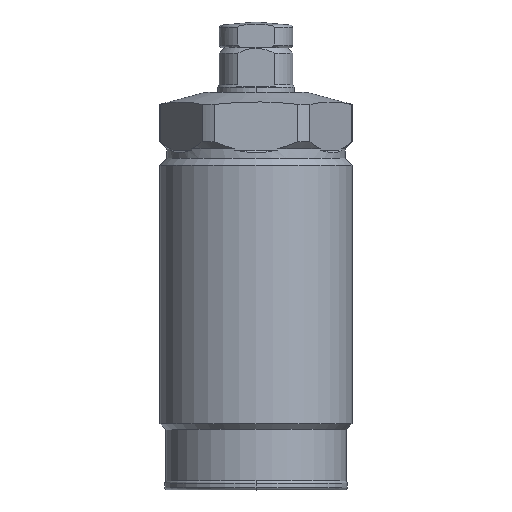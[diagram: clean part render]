
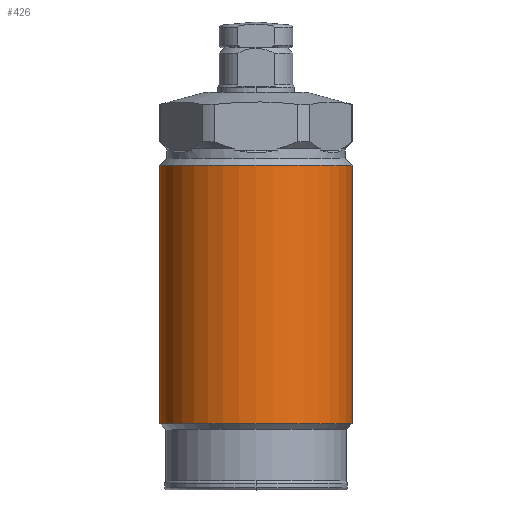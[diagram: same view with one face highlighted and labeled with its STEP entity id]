
A CAD part, top view. The second image highlights one B-rep face of the part: STEP entity #426.
In plain terms, the highlighted cylindrical face has radius 15 mm (diameter 30 mm), a partial arc.
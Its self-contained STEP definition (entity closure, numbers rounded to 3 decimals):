
#426=ADVANCED_FACE('',(#605),#505,.T.);
#505=CYLINDRICAL_SURFACE('',#2585,15.);
#605=FACE_OUTER_BOUND('',#746,.T.);
#746=EDGE_LOOP('',(#1388,#1389,#1390,#1391));
#861=LINE('',#4058,#956);
#862=LINE('',#4059,#957);
#956=VECTOR('',#3212,1.);
#957=VECTOR('',#3213,1.);
#1388=ORIENTED_EDGE('',*,*,#2054,.T.);
#1389=ORIENTED_EDGE('',*,*,#2055,.T.);
#1390=ORIENTED_EDGE('',*,*,#2052,.F.);
#1391=ORIENTED_EDGE('',*,*,#2056,.F.);
#1776=VERTEX_POINT('',#4050);
#1777=VERTEX_POINT('',#4052);
#1778=VERTEX_POINT('',#4056);
#1779=VERTEX_POINT('',#4057);
#2052=EDGE_CURVE('',#1776,#1777,#2304,.T.);
#2054=EDGE_CURVE('',#1778,#1779,#2305,.T.);
#2055=EDGE_CURVE('',#1779,#1777,#861,.T.);
#2056=EDGE_CURVE('',#1778,#1776,#862,.T.);
#2304=CIRCLE('',#2582,15.);
#2305=CIRCLE('',#2584,15.);
#2582=AXIS2_PLACEMENT_3D('',#4051,#3205,#3206);
#2584=AXIS2_PLACEMENT_3D('',#4055,#3210,#3211);
#2585=AXIS2_PLACEMENT_3D('',#4060,#3214,#3215);
#3205=DIRECTION('',(0.,-1.,0.));
#3206=DIRECTION('',(1.,0.,0.));
#3210=DIRECTION('',(0.,-1.,0.));
#3211=DIRECTION('',(1.,0.,0.));
#3212=DIRECTION('',(0.,-1.,0.));
#3213=DIRECTION('',(0.,-1.,0.));
#3214=DIRECTION('',(0.,-1.,0.));
#3215=DIRECTION('',(1.,0.,0.));
#4050=CARTESIAN_POINT('',(15.,-51.7,0.));
#4051=CARTESIAN_POINT('',(0.,-51.7,0.));
#4052=CARTESIAN_POINT('',(-15.,-51.7,0.));
#4055=CARTESIAN_POINT('',(0.,-11.4,0.));
#4056=CARTESIAN_POINT('',(15.,-11.4,0.));
#4057=CARTESIAN_POINT('',(-15.,-11.4,0.));
#4058=CARTESIAN_POINT('',(-15.,1.,0.));
#4059=CARTESIAN_POINT('',(15.,1.,0.));
#4060=CARTESIAN_POINT('',(0.,1.,0.));
